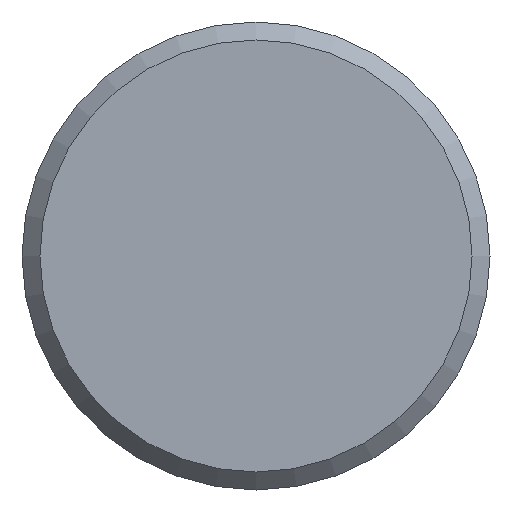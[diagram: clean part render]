
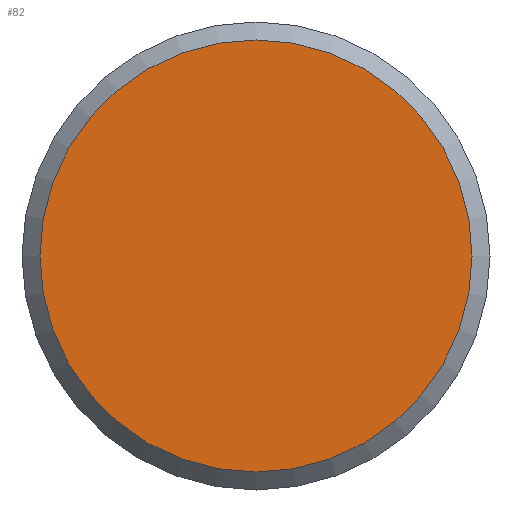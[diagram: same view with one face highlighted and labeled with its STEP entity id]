
A CAD part, front view. The second image highlights one B-rep face of the part: STEP entity #82.
In plain terms, the highlighted planar face has unit normal (0, -1, 0).
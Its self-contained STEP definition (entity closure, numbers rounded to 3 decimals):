
#82 = ADVANCED_FACE( '', ( #113 ), #114, .F. );
#113 = FACE_OUTER_BOUND( '', #157, .T. );
#114 = PLANE( '', #158 );
#157 = EDGE_LOOP( '', ( #226 ) );
#158 = AXIS2_PLACEMENT_3D( '', #227, #228, #229 );
#226 = ORIENTED_EDGE( '', *, *, #329, .T. );
#227 = CARTESIAN_POINT( '', ( 11.08, 0., 0. ) );
#228 = DIRECTION( '', ( 0., 1., 0. ) );
#229 = DIRECTION( '', ( 0., 0., 1. ) );
#329 = EDGE_CURVE( '', #381, #381, #382, .T. );
#381 = VERTEX_POINT( '', #451 );
#382 = CIRCLE( '', #452, 11.08 );
#451 = CARTESIAN_POINT( '', ( 0., 0., -11.08 ) );
#452 = AXIS2_PLACEMENT_3D( '', #517, #518, #519 );
#517 = CARTESIAN_POINT( '', ( 0., 0., 0. ) );
#518 = DIRECTION( '', ( 0., -1., 0. ) );
#519 = DIRECTION( '', ( 0., 0., -1. ) );
